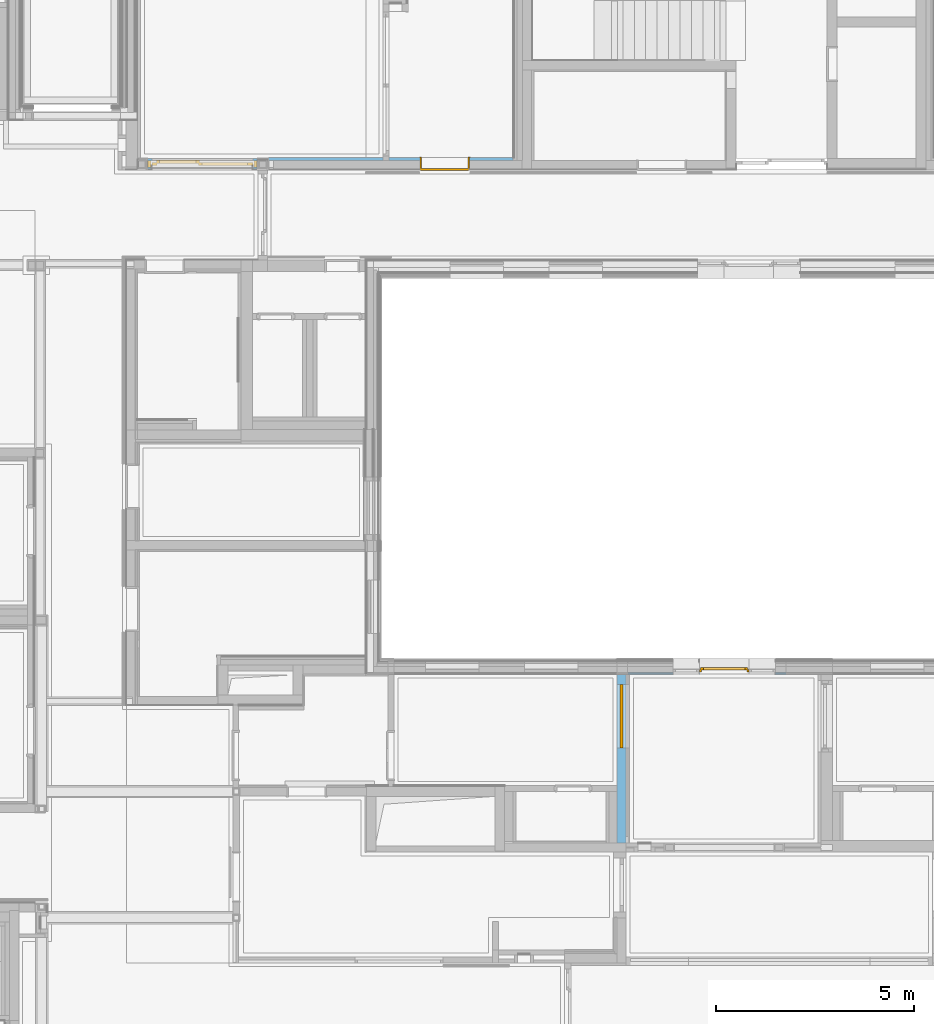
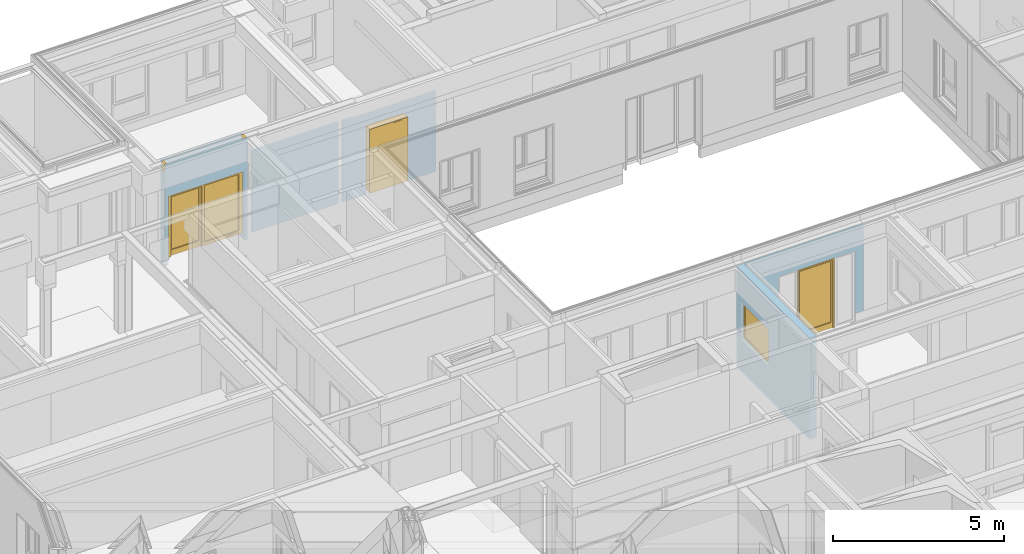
# One storey, part 103 of 207: 3 doors, 1 window, 6 openings, plus 4 elements that do not belong to this part.
"""IFC4 building model written with IfcOpenShell, lengths in metres."""

import ifcopenshell
import ifcopenshell.guid

model = None  # the IFC model being written
_history = None  # IfcOwnerHistory: only IFC2X3 demands one
_inside = {}  # id of a spatial element -> (the spatial element, [elements in it])
_under = {}  # id of a project, library or spatial element -> (it, [spatial elements below it])
_declared = {}  # id of a project -> (the project, [libraries it declares])
_typed = {}  # id of a type object -> (the type object, [elements of that type])
_made_of = {}  # id of a material, layer set ... -> (it, [elements and type objects made of it])


def new_model(schema):
    """Start an empty IFC model of exactly this schema.

    Asked for "IFC4X3", IfcOpenShell would pick the latest addendum, in which some entities
    have other attributes; the version numbers below select the first issue.
    IFC2X3 requires an IfcOwnerHistory on every rooted entity: one is made here for all.
    """
    global model, _history
    if schema == "IFC4X3":
        model = ifcopenshell.file(schema_version=(4, 3, 0, 0))
    else:
        model = ifcopenshell.file(schema=schema)
    _inside.clear()
    _under.clear()
    _declared.clear()
    _typed.clear()
    _made_of.clear()
    _history = None
    if model.schema == "IFC2X3":
        org = make("IfcOrganization", Name="unknown")
        user = make(
            "IfcPersonAndOrganization",
            ThePerson=make("IfcPerson", FamilyName="unknown"),
            TheOrganization=org,
        )
        app = make(
            "IfcApplication",
            ApplicationDeveloper=org,
            Version="unknown",
            ApplicationFullName="unknown",
            ApplicationIdentifier="unknown",
        )
        _history = make(
            "IfcOwnerHistory",
            OwningUser=user,
            OwningApplication=app,
            ChangeAction="ADDED",
            CreationDate=0,
        )
    return model


def make(cls, **values):
    """One entity of the class cls with the attributes given. An attribute that is None is left unset."""
    return model.create_entity(
        cls, **{name: value for name, value in values.items() if value is not None}
    )


def entity(cls, *values):
    """Any entity or typed value of the class cls, its attributes in the order of the schema. None: left unset."""
    e = model.create_entity(cls)
    for i, value in enumerate(values):
        if value is not None:
            e[i] = value
    return e


def rooted(cls, **values):
    """An entity with a GlobalId (a new one), such as an element, a storey or a relation."""
    return make(cls, GlobalId=ifcopenshell.guid.new(), OwnerHistory=_history, **values)


def si_unit(unit_type, name, prefix=None):
    """IfcSIUnit, for example si_unit("LENGTHUNIT", "METRE", prefix="MILLI")."""
    return make("IfcSIUnit", UnitType=unit_type, Prefix=prefix, Name=name)


def converted_unit(unit_type, name, factor, base, dimensions=None, offset=None):
    """IfcConversionBasedUnit, such as the inch: factor (a typed value) times the base unit."""
    return make(
        "IfcConversionBasedUnit"
        if offset is None
        else "IfcConversionBasedUnitWithOffset",
        ConversionOffset=offset,
        Dimensions=None
        if dimensions is None
        else entity("IfcDimensionalExponents", *dimensions),
        UnitType=unit_type,
        Name=name,
        ConversionFactor=make(
            "IfcMeasureWithUnit", ValueComponent=factor, UnitComponent=base
        ),
    )


def derived_unit(unit_type, elements):
    """IfcDerivedUnit: a product of units, each with its exponent."""
    return make(
        "IfcDerivedUnit",
        Elements=[
            make("IfcDerivedUnitElement", Unit=unit, Exponent=power)
            for unit, power in elements
        ],
        UnitType=unit_type,
    )


def assignment(units):
    """IfcUnitAssignment: the units of a project."""
    return None if units is None else make("IfcUnitAssignment", Units=units)


def point(xyz):
    """IfcCartesianPoint."""
    return None if xyz is None else make("IfcCartesianPoint", Coordinates=xyz)


def direction(xyz):
    """IfcDirection."""
    return None if xyz is None else make("IfcDirection", DirectionRatios=xyz)


def frame(location, z_axis=None, x_axis=None):
    """IfcAxis2Placement3D, a coordinate frame: its origin and axes. An axis left out is left unset."""
    return make(
        "IfcAxis2Placement3D",
        Location=point(location),
        Axis=direction(z_axis),
        RefDirection=direction(x_axis),
    )


def frame_2d(location, x_axis=None):
    """IfcAxis2Placement2D, a coordinate frame in the plane: its origin and x axis."""
    return make(
        "IfcAxis2Placement2D", Location=point(location), RefDirection=direction(x_axis)
    )


def origin():
    """The frame at (0, 0, 0) with its axes left unset."""
    return frame((0.0, 0.0, 0.0))


def origin_with_axes():
    """The frame at (0, 0, 0) with the z axis (0, 0, 1) and the x axis (1, 0, 0) written out."""
    return frame((0.0, 0.0, 0.0), z_axis=(0.0, 0.0, 1.0), x_axis=(1.0, 0.0, 0.0))


def place(relative_to, where):
    """IfcLocalPlacement: puts the frame where relative to a parent placement (None: the world)."""
    return make(
        "IfcLocalPlacement", PlacementRelTo=relative_to, RelativePlacement=where
    )


def context(
    kind, dimensions, precision=None, world=None, true_north=None, identifier=None
):
    """IfcGeometricRepresentationContext, for example the 3D "Model" context."""
    return make(
        "IfcGeometricRepresentationContext",
        ContextIdentifier=identifier,
        ContextType=kind,
        CoordinateSpaceDimension=dimensions,
        Precision=precision,
        WorldCoordinateSystem=world,
        TrueNorth=true_north,
    )


def subcontext(parent, identifier, kind, view, scale=None):
    """IfcGeometricRepresentationSubContext, for example "Body" below "Model"."""
    return make(
        "IfcGeometricRepresentationSubContext",
        ContextIdentifier=identifier,
        ContextType=kind,
        ParentContext=parent,
        TargetScale=scale,
        TargetView=view,
    )


def project(units=None, contexts=None):
    """IfcProject with its units and contexts."""
    return rooted(
        "IfcProject",
        Name="project",
        RepresentationContexts=contexts,
        UnitsInContext=assignment(units),
    )


def spatial(cls, under=None, at=None, **own):
    """A site, building, storey or space (cls), placed at a placement, below another one or the project."""
    s = rooted(cls, ObjectPlacement=at, **own)
    if under is not None:
        _under.setdefault(under.id(), (under, []))[1].append(s)
    return s


def polyline(points):
    """IfcPolyline through the points."""
    return make("IfcPolyline", Points=[point(p) for p in points])


def profile(cls, at=None, kind="AREA", **sizes):
    """A parametric profile (cls). Its sizes go by their IFC names, for example OverallWidth=200.0."""
    return make(cls, ProfileType=kind, Position=at, **sizes)


def rectangle(**sizes):
    """IfcRectangleProfileDef."""
    return profile("IfcRectangleProfileDef", **sizes)


def outline(outer, holes=None, kind="AREA"):
    """IfcArbitraryClosedProfileDef: a profile drawn as a closed curve; with holes, ...WithVoids."""
    if holes is None:
        return make("IfcArbitraryClosedProfileDef", ProfileType=kind, OuterCurve=outer)
    return make(
        "IfcArbitraryProfileDefWithVoids",
        ProfileType=kind,
        OuterCurve=outer,
        InnerCurves=holes,
    )


def extrude(swept, where, along, depth):
    """IfcExtrudedAreaSolid: the profile swept, set in the frame where, extruded along a direction by depth."""
    return make(
        "IfcExtrudedAreaSolid",
        SweptArea=swept,
        Position=where,
        ExtrudedDirection=direction(along),
        Depth=depth,
    )


def clip(a, b, op="DIFFERENCE"):
    """IfcBooleanClippingResult: the solid a cut by the half space b."""
    return make(
        "IfcBooleanClippingResult", Operator=op, FirstOperand=a, SecondOperand=b
    )


def bounded_halfspace(plane, agree, where, boundary):
    """IfcPolygonalBoundedHalfSpace: a half space limited to a polygon's prism."""
    return make(
        "IfcPolygonalBoundedHalfSpace",
        BaseSurface=make("IfcPlane", Position=plane),
        AgreementFlag=agree,
        Position=where,
        PolygonalBoundary=boundary,
    )


def faces_of(points, faces, orient=None, outer=None):
    """IfcFace entities. A face is a list of loops; a loop is a list of indices into points, from 0.

    orient and outer hold one flag for each loop. By default every Orientation is true, the
    first loop of a face is its IfcFaceOuterBound and the others are IfcFaceBound.
    """
    made = []
    for i, loops in enumerate(faces):
        bounds = []
        for j, loop in enumerate(loops):
            is_outer = j == 0 if outer is None else outer[i][j]
            bounds.append(
                make(
                    "IfcFaceOuterBound" if is_outer else "IfcFaceBound",
                    Bound=make("IfcPolyLoop", Polygon=[points[k] for k in loop]),
                    Orientation=True if orient is None else orient[i][j],
                )
            )
        made.append(make("IfcFace", Bounds=bounds))
    return made


def closed_shell(faces, orient=None, outer=None):
    """The faces of one IfcClosedShell. faceted_brep and surface_model build it on their shared points."""
    return ("IfcClosedShell", faces, orient, outer)


def open_shell(faces, orient=None, outer=None):
    """The faces of one IfcOpenShell. surface_model builds it on its shared points."""
    return ("IfcOpenShell", faces, orient, outer)


def faceted_brep(points, faces, orient=None, outer=None, voids=None):
    """IfcFacetedBrep: a solid bounded by flat faces; with voids (closed shells), ...WithVoids."""
    shared = [point(p) for p in points]
    hull = make("IfcClosedShell", CfsFaces=faces_of(shared, faces, orient, outer))
    if voids is None:
        return make("IfcFacetedBrep", Outer=hull)
    return make(
        "IfcFacetedBrepWithVoids",
        Outer=hull,
        Voids=[
            make(cls, CfsFaces=faces_of(shared, fs, o, b)) for cls, fs, o, b in voids
        ],
    )


def surface_model(cls, points, shells):
    """IfcFaceBasedSurfaceModel or IfcShellBasedSurfaceModel (cls): surfaces that need not close."""
    shared = [point(p) for p in points]
    made = [make(c, CfsFaces=faces_of(shared, fs, o, b)) for c, fs, o, b in shells]
    if cls == "IfcFaceBasedSurfaceModel":
        return make(cls, FbsmFaces=made)
    return make(cls, SbsmBoundary=made)


def shape(context_of_items, identifier, shape_type, items):
    """IfcShapeRepresentation: the items that make up one representation, for example the "Body"."""
    return make(
        "IfcShapeRepresentation",
        ContextOfItems=context_of_items,
        RepresentationIdentifier=identifier,
        RepresentationType=shape_type,
        Items=items,
    )


def source(mapping_origin, context_of_items, identifier, shape_type, items):
    """IfcRepresentationMap: a shape defined once, which mapped items show again and again."""
    return make(
        "IfcRepresentationMap",
        MappingOrigin=mapping_origin,
        MappedRepresentation=shape(context_of_items, identifier, shape_type, items),
    )


def transform(
    local_origin,
    x_axis=None,
    y_axis=None,
    z_axis=None,
    scale=None,
    scale2=None,
    scale3=None,
    uniform=True,
):
    """IfcCartesianTransformationOperator3D, or its non-uniform kind. x_axis, y_axis, z_axis: its Axis1, 2, 3."""
    if uniform:
        return make(
            "IfcCartesianTransformationOperator3D",
            Axis1=direction(x_axis),
            Axis2=direction(y_axis),
            LocalOrigin=point(local_origin),
            Scale=scale,
            Axis3=direction(z_axis),
        )
    return make(
        "IfcCartesianTransformationOperator3DnonUniform",
        Axis1=direction(x_axis),
        Axis2=direction(y_axis),
        LocalOrigin=point(local_origin),
        Scale=scale,
        Axis3=direction(z_axis),
        Scale2=scale2,
        Scale3=scale3,
    )


def mapped(mapping_source, mapping_target):
    """IfcMappedItem: shows the shape of a source again, moved by a transform."""
    return make(
        "IfcMappedItem", MappingSource=mapping_source, MappingTarget=mapping_target
    )


def material(Name=None, Category=None):
    """IfcMaterial."""
    return make("IfcMaterial", Name=Name, Category=Category)


def made_of(thing, what):
    """Note that an element or type object is made of a material, layer set ...; save() writes the relation."""
    if what is not None:
        _made_of.setdefault(what.id(), (what, []))[1].append(thing)
    return thing


def type_object(cls, material=None, **own):
    """A type object (cls), such as IfcWallType, which elements share."""
    return made_of(rooted(cls, **own), material)


def element(
    cls,
    number,
    at=None,
    inside=None,
    cuts=None,
    type_object=None,
    material=None,
    context=None,
    identifier="Body",
    shape_type=None,
    held_by="IfcProductDefinitionShape",
    body=None,
    shapes=None,
    **own,
):
    """One element of the class cls, such as IfcWall. Its Tag is "e" and its number.

    at: its placement. inside: the storey or other place that contains it. cuts: it is an
    opening in that element (IfcRelVoidsElement). A single representation is given by context,
    identifier, shape_type and body (its items); several are given by shapes. held_by: the class
    of the entity that holds the representations. save() writes the other relations.
    """
    e = rooted(cls, Tag="e%d" % number, ObjectPlacement=at, **own)
    if body is not None:
        shapes = [shape(context, identifier, shape_type, body)]
    if shapes is not None:
        e.Representation = make(held_by, Representations=shapes)
    if inside is not None:
        _inside.setdefault(inside.id(), (inside, []))[1].append(e)
    if cuts is not None:
        rooted(
            "IfcRelVoidsElement", RelatingBuildingElement=cuts, RelatedOpeningElement=e
        )
    if type_object is not None:
        _typed.setdefault(type_object.id(), (type_object, []))[1].append(e)
    return made_of(e, material)


def fill(opening, filler):
    """IfcRelFillsElement: the door or window that sits in an opening."""
    return rooted(
        "IfcRelFillsElement",
        RelatingOpeningElement=opening,
        RelatedBuildingElement=filler,
    )


def aggregate(whole, parts):
    """IfcRelAggregates: a whole, such as a stair, and the parts it consists of."""
    return rooted("IfcRelAggregates", RelatingObject=whole, RelatedObjects=parts)


def save(model, path):
    """Write the relations noted so far, then the file.

    IfcRelAggregates (storeys below a building ...), IfcRelContainedInSpatialStructure (elements
    in a storey), IfcRelDefinesByType, IfcRelAssociatesMaterial and IfcRelDeclares: one each for
    every whole, place, type object, material and project.
    """
    for whole, parts in _under.values():
        aggregate(whole, parts)
    for where, things in _inside.values():
        rooted(
            "IfcRelContainedInSpatialStructure",
            RelatedElements=things,
            RelatingStructure=where,
        )
    for kind, things in _typed.values():
        rooted("IfcRelDefinesByType", RelatedObjects=things, RelatingType=kind)
    for what, things in _made_of.values():
        rooted("IfcRelAssociatesMaterial", RelatedObjects=things, RelatingMaterial=what)
    for by, libraries in _declared.values():
        rooted("IfcRelDeclares", RelatingContext=by, RelatedDefinitions=libraries)
    model.write(path)


model = new_model("IFC4")

# Units and contexts
model_context = context("Model", 3, precision=1e-05, world=origin())
body_context = subcontext(model_context, "Body", "Model", "MODEL_VIEW")
ifc_project = project(units=[si_unit("LENGTHUNIT", "METRE"), si_unit("AREAUNIT", "SQUARE_METRE"), si_unit("VOLUMEUNIT", "CUBIC_METRE"), si_unit("MASSUNIT", "GRAM", prefix="KILO"), converted_unit("PLANEANGLEUNIT", "DEGREE", entity("IfcPlaneAngleMeasure", 0.0174532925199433), si_unit("PLANEANGLEUNIT", "RADIAN"), dimensions=[0, 0, 0, 0, 0, 0, 0]), derived_unit("THERMALTRANSMITTANCEUNIT", [(si_unit("POWERUNIT", "WATT"), 1), (si_unit("THERMODYNAMICTEMPERATUREUNIT", "KELVIN"), -1), (si_unit("LENGTHUNIT", "METRE"), -2)]), derived_unit("VOLUMETRICFLOWRATEUNIT", [(si_unit("LENGTHUNIT", "METRE"), 3), (converted_unit("TIMEUNIT", "hour", entity("IfcTimeMeasure", 3600.0), si_unit("TIMEUNIT", "SECOND"), dimensions=[0, 0, 1, 0, 0, 0, 0]), -1), (si_unit("LENGTHUNIT", "METRE"), -1)])], contexts=[model_context])

# Site, building, storey
site_placement = place(None, origin())
site = spatial("IfcSite", under=ifc_project, at=site_placement, Name="Psychiatrie Neubau Wunstorf", CompositionType="ELEMENT")
building_placement = place(site_placement, origin())
building = spatial("IfcBuilding", under=site, at=building_placement, Name="Neubau H2 Stationsgebäude", CompositionType="ELEMENT")
storey_placement = place(building_placement, frame((0.0, 0.0, -0.2)))
storey = spatial("IfcBuildingStorey", under=building, at=storey_placement, Name="H2 Ebene 0", CompositionType="ELEMENT", Elevation=-0.2)

# Wall, openings, door
ifc_material_1 = material(Name="WA-LB")
wall_1_placement = place(storey_placement, frame((50.5580000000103, 10.1139996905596, 0.5)))
wall_1 = element("IfcWall", 1, at=wall_1_placement, inside=storey, material=ifc_material_1, context=body_context, shape_type="SweptSolid", body=[
    extrude(rectangle(XDim=4.00450000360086, YDim=0.036, at=frame_2d((2.00225000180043, 0.018), x_axis=(1.0, 0.0))), origin_with_axes(), (0.0, 0.0, 1.0), 3.1),
])
opening_1_placement = place(wall_1_placement, frame((1.81567714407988, 0.036, -0.3), z_axis=(0.0, -1.0, 0.0), x_axis=(0.0, 0.0, 1.0)))
element("IfcOpeningElement", 2, at=opening_1_placement, cuts=wall_1, Name="Fensteröffnung", ObjectType="Opening", context=body_context, shape_type="SweptSolid", body=[
    extrude(outline(polyline([(2.52, 0.675), (2.52, 0.0), (0.0, 0.0), (0.0, 0.675), (2.52, 0.675)])), origin_with_axes(), (0.0, 0.0, 1.0), 0.036),
])
opening_2_placement = place(wall_1_placement, frame((3.06570000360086, 0.036, -0.5), z_axis=(0.0, -1.0, 0.0), x_axis=(0.0, 0.0, 1.0)))
opening_2 = element("IfcOpeningElement", 3, at=opening_2_placement, cuts=wall_1, Name="Türöffnung", ObjectType="Opening", context=body_context, shape_type="SweptSolid", body=[
    extrude(outline(polyline([(2.72, 1.25), (2.72, 0.0), (0.0, 0.0), (0.0, 1.25), (2.72, 1.25)])), origin_with_axes(), (0.0, 0.0, 1.0), 0.036),
])
opening_3_placement = place(wall_1_placement, frame((3.74070000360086, 0.036, -0.3), z_axis=(0.0, -1.0, 0.0), x_axis=(0.0, 0.0, 1.0)))
element("IfcOpeningElement", 4, at=opening_3_placement, cuts=wall_1, Name="Fensteröffnung", ObjectType="Opening", context=body_context, shape_type="SweptSolid", body=[
    extrude(outline(polyline([(2.52, 0.675), (2.52, 0.0), (0.0, 0.0), (0.0, 0.675), (2.52, 0.675)])), origin_with_axes(), (0.0, 0.0, 1.0), 0.036),
])
ifc_material_2 = material(Name="TA-1F-AG-D-O")
door_type_1 = type_object("IfcDoorType", Name="SMT", OperationType="SINGLE_SWING_RIGHT", ParameterTakesPrecedence=False, PredefinedType="DOOR")
shared_shape_1 = source(origin_with_axes(), body_context, "Body", "SurfaceModel", [
    surface_model("IfcShellBasedSurfaceModel", [(1.25, 0.07, 2.67), (1.2, 0.07, 2.67), (1.2, 0.07, 0.2), (1.25, 0.07, 0.2), (1.25, 0.0, 0.2), (1.2, 0.0, 0.2), (1.2, 0.0, 2.67), (1.25, 0.0, 2.67)], [closed_shell([[[0, 1, 2, 3]], [[4, 5, 6, 7]], [[3, 4, 7, 0]], [[2, 5, 4, 3]], [[1, 6, 5, 2]], [[0, 7, 6, 1]]], orient=[[False], [False], [False], [False], [False], [False]])]),
    surface_model("IfcShellBasedSurfaceModel", [(0.05, 0.07, 2.67), (0.0, 0.07, 2.67), (0.0, 0.07, 0.2), (0.05, 0.07, 0.2), (0.05, 0.0, 0.2), (0.0, 0.0, 0.2), (0.0, 0.0, 2.67), (0.05, 0.0, 2.67)], [closed_shell([[[0, 1, 2, 3]], [[4, 5, 6, 7]], [[3, 4, 7, 0]], [[2, 5, 4, 3]], [[1, 6, 5, 2]], [[0, 7, 6, 1]]], orient=[[False], [False], [False], [False], [False], [False]])]),
    surface_model("IfcShellBasedSurfaceModel", [(1.2, 0.07, 2.67), (0.05, 0.07, 2.67), (0.05, 0.07, 2.62), (1.2, 0.07, 2.62), (1.2, 0.0, 2.62), (0.05, 0.0, 2.62), (0.05, 0.0, 2.67), (1.2, 0.0, 2.67)], [closed_shell([[[0, 1, 2, 3]], [[4, 5, 6, 7]], [[3, 4, 7, 0]], [[2, 5, 4, 3]], [[1, 6, 5, 2]], [[0, 7, 6, 1]]], orient=[[False], [False], [False], [False], [False], [False]])]),
    surface_model("IfcShellBasedSurfaceModel", [(1.22, 0.12, 2.64), (1.15, 0.12, 2.64), (1.15, 0.12, 0.18), (1.22, 0.12, 0.18), (1.22, 0.05, 0.18), (1.15, 0.05, 0.18), (1.15, 0.05, 2.64), (1.22, 0.05, 2.64)], [closed_shell([[[0, 1, 2, 3]], [[4, 5, 6, 7]], [[3, 4, 7, 0]], [[2, 5, 4, 3]], [[1, 6, 5, 2]], [[0, 7, 6, 1]]], orient=[[False], [False], [False], [False], [False], [False]])]),
    surface_model("IfcShellBasedSurfaceModel", [(0.1, 0.12, 2.64), (0.03, 0.12, 2.64), (0.03, 0.12, 0.18), (0.1, 0.12, 0.18), (0.1, 0.05, 0.18), (0.03, 0.05, 0.18), (0.03, 0.05, 2.64), (0.1, 0.05, 2.64)], [closed_shell([[[0, 1, 2, 3]], [[4, 5, 6, 7]], [[3, 4, 7, 0]], [[2, 5, 4, 3]], [[1, 6, 5, 2]], [[0, 7, 6, 1]]], orient=[[False], [False], [False], [False], [False], [False]])]),
    surface_model("IfcShellBasedSurfaceModel", [(1.15, 0.12, 0.38), (0.1, 0.12, 0.38), (0.1, 0.12, 0.18), (1.15, 0.12, 0.18), (1.15, 0.05, 0.18), (0.1, 0.05, 0.18), (0.1, 0.05, 0.38), (1.15, 0.05, 0.38)], [closed_shell([[[0, 1, 2, 3]], [[4, 5, 6, 7]], [[3, 4, 7, 0]], [[2, 5, 4, 3]], [[1, 6, 5, 2]], [[0, 7, 6, 1]]], orient=[[False], [False], [False], [False], [False], [False]])]),
    surface_model("IfcShellBasedSurfaceModel", [(1.15, 0.12, 2.64), (0.1, 0.12, 2.64), (0.1, 0.12, 2.57), (1.15, 0.12, 2.57), (1.15, 0.05, 2.57), (0.1, 0.05, 2.57), (0.1, 0.05, 2.64), (1.15, 0.05, 2.64)], [closed_shell([[[0, 1, 2, 3]], [[4, 5, 6, 7]], [[3, 4, 7, 0]], [[2, 5, 4, 3]], [[1, 6, 5, 2]], [[0, 7, 6, 1]]], orient=[[False], [False], [False], [False], [False], [False]])]),
    surface_model("IfcShellBasedSurfaceModel", [(1.15, 0.085, 0.38), (1.15, 0.085, 2.57), (0.1, 0.085, 2.57), (0.1, 0.085, 0.38)], [open_shell([[[0, 1, 2, 3]]], orient=[[False]])]),
])
door_1_placement = place(opening_2_placement, frame((0.0, 1.25, -0.014), z_axis=(1.0, 0.0, 0.0), x_axis=(0.0, -1.0, 0.0)))
door_1 = element("IfcDoor", 5, at=door_1_placement, inside=storey, type_object=door_type_1, material=ifc_material_2, Name="SMT", OverallHeight=2.67, OverallWidth=1.25, context=body_context, shape_type="MappedRepresentation", body=[
    mapped(shared_shape_1, transform((0.0, 0.0, 0.0), x_axis=(1.0, 0.0, 0.0), y_axis=(0.0, 1.0, 0.0), z_axis=(0.0, 0.0, 1.0), scale=1.0)),
])
fill(opening_2, door_1)

# Wall, opening, door
ifc_material_3 = material(Name="WI-LW 60")
wall_2_placement = place(storey_placement, frame((41.188, 23.1539990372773, 0.0), z_axis=(0.0, 0.0, 1.0), x_axis=(-0.999999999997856, -2.07069288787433e-06, 0.0)))
wall_2 = element("IfcWall", 6, at=wall_2_placement, inside=storey, material=ifc_material_3, context=body_context, shape_type="Clipping", body=[
    clip(extrude(outline(polyline([(-2.65750060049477, -0.289994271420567), (-0.107500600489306, -0.28999427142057), (-6.00489075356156e-07, -0.289994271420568), (0.0, 0.0), (-2.76499999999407, 5.72546583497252e-06), (-2.765000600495, -0.289994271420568), (-2.65750060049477, -0.289994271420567)])), frame((2.765000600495, 0.289994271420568, 0.0), z_axis=(0.0, 0.0, 1.0), x_axis=(1.0, 0.0, 0.0)), (0.0, 0.0, 1.0), 3.6), bounded_halfspace(frame((1.38250030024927, 0.144997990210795, 3.3), z_axis=(0.0, 0.0, -1.0), x_axis=(2.07069288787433e-06, 0.999999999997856, 0.0)), True, origin_with_axes(), polyline([(2.76500011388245, 0.0549944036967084), (2.76500048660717, 0.234994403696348), (4.8661609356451e-07, 0.235001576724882), (1.13891373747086e-07, 0.0550015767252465), (2.76500011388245, 0.0549944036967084)]))),
])
opening_4_placement = place(wall_2_placement, frame((2.6574999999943, 0.289999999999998, 0.0), z_axis=(3.24297584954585e-11, -1.0, 0.0), x_axis=(0.0, 0.0, 1.0)))
opening_4 = element("IfcOpeningElement", 7, at=opening_4_placement, cuts=wall_2, Name="Türöffnung", ObjectType="Opening", context=body_context, shape_type="SweptSolid", body=[
    extrude(outline(polyline([(2.46, 2.55), (2.46, 0.0), (0.0, 0.0), (0.0, 2.55), (2.46, 2.55)])), origin_with_axes(), (0.0, 0.0, 1.0), 0.29),
])
ifc_material_4 = material(Name="TI-1F-AG-D-1S-O")
shared_shape_2 = source(origin_with_axes(), body_context, "Body", "Brep", [
    faceted_brep([(2.65749999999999, -0.0500000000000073, 0.0), (2.65749999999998, 0.129999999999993, 0.0), (2.57749999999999, 0.129999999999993, 0.0), (2.57749999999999, -0.0500000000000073, 0.0), (2.65749999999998, 0.129999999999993, 3.6), (2.65749999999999, -0.0500000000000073, 3.6), (2.57749999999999, -0.0500000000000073, 3.6), (2.57749999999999, 0.129999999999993, 3.6)], [[[0, 1, 2, 3]], [[4, 5, 6, 7]], [[1, 0, 5, 4]], [[2, 1, 4, 7]], [[3, 2, 7, 6]], [[0, 3, 6, 5]]], orient=[[False], [False], [False], [False], [False], [False]]),
    faceted_brep([(-0.0275000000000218, -0.0500000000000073, 0.0), (-0.0275000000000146, 0.129999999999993, 0.0), (-0.107500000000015, 0.129999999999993, 0.0), (-0.107500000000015, -0.0500000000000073, 0.0), (-0.0275000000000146, 0.129999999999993, 3.6), (-0.0275000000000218, -0.0500000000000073, 3.6), (-0.107500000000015, -0.0500000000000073, 3.6), (-0.107500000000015, 0.129999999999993, 3.6)], [[[0, 1, 2, 3]], [[4, 5, 6, 7]], [[1, 0, 5, 4]], [[2, 1, 4, 7]], [[3, 2, 7, 6]], [[0, 3, 6, 5]]], orient=[[False], [False], [False], [False], [False], [False]]),
    faceted_brep([(2.57749999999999, -0.0500000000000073, 2.4875), (2.57749999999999, 0.129999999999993, 2.4875), (-0.0275000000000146, 0.129999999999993, 2.4875), (-0.0275000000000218, -0.0500000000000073, 2.4875), (2.57749999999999, 0.129999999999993, 2.5675), (2.57749999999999, -0.0500000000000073, 2.5675), (-0.0275000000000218, -0.0500000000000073, 2.5675), (-0.0275000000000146, 0.129999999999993, 2.5675)], [[[0, 1, 2, 3]], [[4, 5, 6, 7]], [[1, 0, 5, 4]], [[2, 1, 4, 7]], [[3, 2, 7, 6]], [[0, 3, 6, 5]]], orient=[[False], [False], [False], [False], [False], [False]]),
])
shared_shape_3 = source(origin_with_axes(), body_context, "Body", "SurfaceModel", [
    surface_model("IfcShellBasedSurfaceModel", [(0.0, 0.000499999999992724, 2.46), (0.0499999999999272, 0.000499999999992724, 2.46), (0.0499999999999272, 0.000499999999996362, 0.2), (0.0, 0.000499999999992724, 0.2), (0.0, 0.0794999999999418, 0.2), (0.0499999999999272, 0.0794999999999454, 0.2), (0.0499999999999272, 0.0794999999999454, 2.46), (0.0, 0.0794999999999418, 2.46)], [closed_shell([[[0, 1, 2, 3]], [[4, 5, 6, 7]], [[3, 4, 7, 0]], [[2, 5, 4, 3]], [[1, 6, 5, 2]], [[0, 7, 6, 1]]], orient=[[False], [False], [False], [False], [False], [False]])]),
    surface_model("IfcShellBasedSurfaceModel", [(2.49999999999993, 0.000499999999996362, 2.46), (2.54999999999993, 0.000499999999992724, 2.46), (2.54999999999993, 0.000499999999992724, 0.2), (2.49999999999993, 0.000499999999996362, 0.2), (2.49999999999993, 0.0794999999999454, 0.2), (2.54999999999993, 0.0794999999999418, 0.2), (2.54999999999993, 0.0794999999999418, 2.46), (2.49999999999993, 0.0794999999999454, 2.46)], [closed_shell([[[0, 1, 2, 3]], [[4, 5, 6, 7]], [[3, 4, 7, 0]], [[2, 5, 4, 3]], [[1, 6, 5, 2]], [[0, 7, 6, 1]]], orient=[[False], [False], [False], [False], [False], [False]])]),
    surface_model("IfcShellBasedSurfaceModel", [(0.0499999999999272, 0.000499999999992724, 2.46), (2.49999999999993, 0.000499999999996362, 2.46), (2.49999999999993, 0.000499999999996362, 2.41), (0.0499999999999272, 0.000499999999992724, 2.41), (0.0499999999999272, 0.0794999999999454, 2.41), (2.49999999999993, 0.0794999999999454, 2.41), (2.49999999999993, 0.0794999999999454, 2.46), (0.0499999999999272, 0.0794999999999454, 2.46)], [closed_shell([[[0, 1, 2, 3]], [[4, 5, 6, 7]], [[3, 4, 7, 0]], [[2, 5, 4, 3]], [[1, 6, 5, 2]], [[0, 7, 6, 1]]], orient=[[False], [False], [False], [False], [False], [False]])]),
    surface_model("IfcShellBasedSurfaceModel", [(0.0499999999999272, 0.0, 2.41), (0.129999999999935, 0.0, 2.41), (0.129999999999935, 0.0, 0.2), (0.0499999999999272, 0.0, 0.2), (0.0499999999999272, 0.0799999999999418, 0.2), (0.129999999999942, 0.0799999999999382, 0.2), (0.129999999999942, 0.0799999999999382, 2.41), (0.0499999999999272, 0.0799999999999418, 2.41)], [closed_shell([[[0, 1, 2, 3]], [[4, 5, 6, 7]], [[3, 4, 7, 0]], [[2, 5, 4, 3]], [[1, 6, 5, 2]], [[0, 7, 6, 1]]], orient=[[False], [False], [False], [False], [False], [False]])]),
    surface_model("IfcShellBasedSurfaceModel", [(2.41999999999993, 0.0, 2.41), (2.49999999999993, 0.0, 2.41), (2.49999999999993, 0.0, 0.2), (2.41999999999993, 0.0, 0.2), (2.41999999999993, 0.0799999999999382, 0.2), (2.49999999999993, 0.0799999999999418, 0.2), (2.49999999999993, 0.0799999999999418, 2.41), (2.41999999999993, 0.0799999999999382, 2.41)], [closed_shell([[[0, 1, 2, 3]], [[4, 5, 6, 7]], [[3, 4, 7, 0]], [[2, 5, 4, 3]], [[1, 6, 5, 2]], [[0, 7, 6, 1]]], orient=[[False], [False], [False], [False], [False], [False]])]),
    surface_model("IfcShellBasedSurfaceModel", [(0.129999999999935, 0.0, 2.41), (2.41999999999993, 0.0, 2.41), (2.41999999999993, 0.0, 2.33), (0.129999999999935, 0.0, 2.33), (0.129999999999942, 0.0799999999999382, 2.33), (2.41999999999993, 0.0799999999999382, 2.33), (2.41999999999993, 0.0799999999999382, 2.41), (0.129999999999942, 0.0799999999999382, 2.41)], [closed_shell([[[0, 1, 2, 3]], [[4, 5, 6, 7]], [[3, 4, 7, 0]], [[2, 5, 4, 3]], [[1, 6, 5, 2]], [[0, 7, 6, 1]]], orient=[[False], [False], [False], [False], [False], [False]])]),
    surface_model("IfcShellBasedSurfaceModel", [(0.109999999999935, 0.0599999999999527, 2.35), (0.189999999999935, 0.0599999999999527, 2.35), (0.189999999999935, 0.0599999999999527, 0.18), (0.109999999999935, 0.0599999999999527, 0.18), (0.109999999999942, 0.139999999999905, 0.18), (0.189999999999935, 0.139999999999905, 0.18), (0.189999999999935, 0.139999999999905, 2.35), (0.109999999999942, 0.139999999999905, 2.35)], [closed_shell([[[0, 1, 2, 3]], [[4, 5, 6, 7]], [[3, 4, 7, 0]], [[2, 5, 4, 3]], [[1, 6, 5, 2]], [[0, 7, 6, 1]]], orient=[[False], [False], [False], [False], [False], [False]])]),
    surface_model("IfcShellBasedSurfaceModel", [(1.11999999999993, 0.0599999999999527, 2.35), (1.19999999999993, 0.0599999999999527, 2.35), (1.19999999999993, 0.0599999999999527, 0.18), (1.11999999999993, 0.0599999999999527, 0.18), (1.11999999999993, 0.139999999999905, 0.18), (1.19999999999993, 0.139999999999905, 0.18), (1.19999999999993, 0.139999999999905, 2.35), (1.11999999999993, 0.139999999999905, 2.35)], [closed_shell([[[0, 1, 2, 3]], [[4, 5, 6, 7]], [[3, 4, 7, 0]], [[2, 5, 4, 3]], [[1, 6, 5, 2]], [[0, 7, 6, 1]]], orient=[[False], [False], [False], [False], [False], [False]])]),
    surface_model("IfcShellBasedSurfaceModel", [(0.189999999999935, 0.0599999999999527, 0.38), (1.11999999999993, 0.0599999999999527, 0.38), (1.11999999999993, 0.0599999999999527, 0.18), (0.189999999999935, 0.0599999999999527, 0.18), (0.189999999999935, 0.139999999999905, 0.18), (1.11999999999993, 0.139999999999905, 0.18), (1.11999999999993, 0.139999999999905, 0.38), (0.189999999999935, 0.139999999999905, 0.38)], [closed_shell([[[0, 1, 2, 3]], [[4, 5, 6, 7]], [[3, 4, 7, 0]], [[2, 5, 4, 3]], [[1, 6, 5, 2]], [[0, 7, 6, 1]]], orient=[[False], [False], [False], [False], [False], [False]])]),
    surface_model("IfcShellBasedSurfaceModel", [(0.189999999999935, 0.0599999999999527, 2.35), (1.11999999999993, 0.0599999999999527, 2.35), (1.11999999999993, 0.0599999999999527, 2.27), (0.189999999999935, 0.0599999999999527, 2.27), (0.189999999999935, 0.139999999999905, 2.27), (1.11999999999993, 0.139999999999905, 2.27), (1.11999999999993, 0.139999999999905, 2.35), (0.189999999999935, 0.139999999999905, 2.35)], [closed_shell([[[0, 1, 2, 3]], [[4, 5, 6, 7]], [[3, 4, 7, 0]], [[2, 5, 4, 3]], [[1, 6, 5, 2]], [[0, 7, 6, 1]]], orient=[[False], [False], [False], [False], [False], [False]])]),
    surface_model("IfcShellBasedSurfaceModel", [(1.18099999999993, 0.0, 2.33), (1.26099999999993, 0.0, 2.33), (1.26099999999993, 0.0, 0.2), (1.18099999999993, 0.0, 0.2), (1.18099999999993, 0.0799999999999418, 0.2), (1.26099999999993, 0.0799999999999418, 0.2), (1.26099999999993, 0.0799999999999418, 2.33), (1.18099999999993, 0.0799999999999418, 2.33)], [closed_shell([[[0, 1, 2, 3]], [[4, 5, 6, 7]], [[3, 4, 7, 0]], [[2, 5, 4, 3]], [[1, 6, 5, 2]], [[0, 7, 6, 1]]], orient=[[False], [False], [False], [False], [False], [False]])]),
    surface_model("IfcShellBasedSurfaceModel", [(1.26099999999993, 0.0, 0.32), (2.41999999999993, 0.0, 0.32), (2.41999999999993, 0.0, 0.2), (1.26099999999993, 0.0, 0.2), (1.26099999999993, 0.0799999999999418, 0.2), (2.41999999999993, 0.0799999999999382, 0.2), (2.41999999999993, 0.0799999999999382, 0.32), (1.26099999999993, 0.0799999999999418, 0.32)], [closed_shell([[[0, 1, 2, 3]], [[4, 5, 6, 7]], [[3, 4, 7, 0]], [[2, 5, 4, 3]], [[1, 6, 5, 2]], [[0, 7, 6, 1]]], orient=[[False], [False], [False], [False], [False], [False]])]),
    surface_model("IfcShellBasedSurfaceModel", [(1.26099999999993, 0.0399999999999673, 0.32), (1.26099999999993, 0.0399999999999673, 2.33), (2.41999999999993, 0.0399999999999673, 2.33), (2.41999999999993, 0.0399999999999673, 0.32)], [open_shell([[[0, 1, 2, 3]]], orient=[[False]])]),
    surface_model("IfcShellBasedSurfaceModel", [(0.189999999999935, 0.0999999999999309, 0.38), (0.189999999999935, 0.0999999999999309, 2.27), (1.11999999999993, 0.0999999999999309, 2.27), (1.11999999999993, 0.0999999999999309, 0.38)], [open_shell([[[0, 1, 2, 3]]], orient=[[False]])]),
])
door_2_placement = place(opening_4_placement, frame((0.0, 0.0, 0.104999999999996), z_axis=(1.0, 0.0, 0.0), x_axis=(0.0, 1.0, -3.24307627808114e-11)))
door_2 = element("IfcDoor", 8, at=door_2_placement, inside=storey, material=ifc_material_4, Name="SMT", OperationType="USERDEFINED", OverallHeight=2.46, OverallWidth=2.55, PredefinedType="DOOR", context=body_context, shape_type="MappedRepresentation", body=[
    mapped(shared_shape_2, transform((0.0, 0.0, 0.0), x_axis=(1.0, 0.0, 0.0), y_axis=(0.0, 1.0, 0.0), z_axis=(0.0, 0.0, 1.0), scale=1.0)),
    mapped(shared_shape_3, transform((0.0, 0.0, 0.0), x_axis=(1.0, 0.0, 0.0), y_axis=(0.0, 1.0, 0.0), z_axis=(0.0, 0.0, 1.0), scale=1.0)),
])
fill(opening_4, door_2)

ifc_material_5 = material(Name="WI-LB")
wall_3_placement = place(storey_placement, frame((47.664, 23.1709999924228, 0.0), z_axis=(0.0, 0.0, 1.0), x_axis=(-1.0, 0.0, 0.0)))
wall_3 = element("IfcWall", 9, at=wall_3_placement, inside=storey, material=ifc_material_5, context=body_context, shape_type="Clipping", body=[
    clip(extrude(rectangle(XDim=3.139, YDim=0.075, at=frame_2d((-1.5695, -0.0375), x_axis=(-1.0, 0.0))), frame((3.139, 0.075, 0.0), z_axis=(0.0, 0.0, 1.0), x_axis=(1.0, 0.0, 0.0)), (0.0, 0.0, 1.0), 2.9), bounded_halfspace(frame((1.40825000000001, 0.0375, 2.86), z_axis=(0.0, 0.0, -1.0), x_axis=(0.0, 1.0, 0.0)), True, origin_with_axes(), polyline([(2.81650000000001, 0.0), (2.81650000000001, 0.075), (0.0, 0.075), (0.0, 0.0), (2.81650000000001, 0.0)]))),
    clip(extrude(rectangle(XDim=2.897, YDim=0.075, at=frame_2d((1.4485, 0.0375), x_axis=(1.0, 0.0))), frame((3.289, 0.0, 0.0), z_axis=(0.0, 0.0, 1.0), x_axis=(1.0, 0.0, 0.0)), (0.0, 0.0, 1.0), 2.9), bounded_halfspace(frame((1.40825000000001, 0.0375, 2.86), z_axis=(0.0, 0.0, -1.0), x_axis=(0.0, 1.0, 0.0)), True, origin_with_axes(), polyline([(2.81650000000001, 0.0), (2.81650000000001, 0.075), (0.0, 0.075), (0.0, 0.0), (2.81650000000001, 0.0)]))),
])
opening_5_placement = place(wall_3_placement, frame((2.35899999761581, 0.075, 0.0), z_axis=(0.0, -1.0, 0.0), x_axis=(0.0, 0.0, 1.0)))
opening_5 = element("IfcOpeningElement", 10, at=opening_5_placement, cuts=wall_3, Name="Türöffnung", ObjectType="Opening", context=body_context, shape_type="SweptSolid", body=[
    extrude(outline(polyline([(2.46, 1.26), (2.46, 0.0), (0.0, 0.0), (0.0, 1.26), (2.46, 1.26)])), origin_with_axes(), (0.0, 0.0, 1.0), 0.075),
])
ifc_material_6 = material(Name="TI-1F-UZ-M-ZK-SF")
door_type_2 = type_object("IfcDoorType", Name="SMT", OperationType="SINGLE_SWING_RIGHT", ParameterTakesPrecedence=False, PredefinedType="DOOR")
shared_shape_4 = source(origin_with_axes(), body_context, "Body", "Brep", [
    faceted_brep([(1.26, -0.015, 2.46), (1.26, -0.015, 0.2), (1.22, -0.015, 0.2), (1.22, -0.015, 2.46), (1.26, 0.322, 0.2), (1.26, 0.322, 2.46), (1.22, 0.322, 2.46), (1.22, 0.322, 0.2)], [[[0, 1, 2, 3]], [[4, 5, 6, 7]], [[1, 0, 5, 4]], [[2, 1, 4, 7]], [[3, 2, 7, 6]], [[0, 3, 6, 5]]], orient=[[False], [False], [False], [False], [False], [False]]),
    faceted_brep([(1.26, -0.015, 2.475), (1.275, -0.015, 2.475), (1.275, -0.015, 0.2), (1.26, -0.015, 0.2), (1.26, 0.0, 0.2), (1.275, 0.0, 0.2), (1.275, 0.0, 2.475), (1.26, 0.0, 2.475)], [[[0, 1, 2, 3]], [[4, 5, 6, 7]], [[3, 4, 7, 0]], [[2, 5, 4, 3]], [[1, 6, 5, 2]], [[0, 7, 6, 1]]], orient=[[False], [False], [False], [False], [False], [False]]),
    faceted_brep([(1.26, 0.307, 2.475), (1.275, 0.307, 2.475), (1.275, 0.307, 0.2), (1.26, 0.307, 0.2), (1.26, 0.322, 0.2), (1.275, 0.322, 0.2), (1.275, 0.322, 2.475), (1.26, 0.322, 2.475)], [[[0, 1, 2, 3]], [[4, 5, 6, 7]], [[3, 4, 7, 0]], [[2, 5, 4, 3]], [[1, 6, 5, 2]], [[0, 7, 6, 1]]], orient=[[False], [False], [False], [False], [False], [False]]),
    faceted_brep([(0.04, -0.015, 2.46), (0.04, -0.015, 0.2), (0.0, -0.015, 0.2), (0.0, -0.015, 2.46), (0.04, 0.322, 0.2), (0.04, 0.322, 2.46), (0.0, 0.322, 2.46), (0.0, 0.322, 0.2)], [[[0, 1, 2, 3]], [[4, 5, 6, 7]], [[1, 0, 5, 4]], [[2, 1, 4, 7]], [[3, 2, 7, 6]], [[0, 3, 6, 5]]], orient=[[False], [False], [False], [False], [False], [False]]),
    faceted_brep([(0.0, -0.015, 2.475), (0.0, -0.015, 0.2), (-0.015, -0.015, 0.2), (-0.015, -0.015, 2.475), (0.0, 0.0, 0.2), (0.0, 0.0, 2.475), (-0.015, 0.0, 2.475), (-0.015, 0.0, 0.2)], [[[0, 1, 2, 3]], [[4, 5, 6, 7]], [[1, 0, 5, 4]], [[2, 1, 4, 7]], [[3, 2, 7, 6]], [[0, 3, 6, 5]]], orient=[[False], [False], [False], [False], [False], [False]]),
    faceted_brep([(0.0, 0.307, 2.475), (0.0, 0.307, 0.2), (-0.015, 0.307, 0.2), (-0.015, 0.307, 2.475), (0.0, 0.322, 0.2), (0.0, 0.322, 2.475), (-0.015, 0.322, 2.475), (-0.015, 0.322, 0.2)], [[[0, 1, 2, 3]], [[4, 5, 6, 7]], [[1, 0, 5, 4]], [[2, 1, 4, 7]], [[3, 2, 7, 6]], [[0, 3, 6, 5]]], orient=[[False], [False], [False], [False], [False], [False]]),
    faceted_brep([(1.22, -0.015, 2.46), (1.22, -0.015, 2.42), (0.04, -0.015, 2.42), (0.04, -0.015, 2.46), (1.22, 0.322, 2.42), (1.22, 0.322, 2.46), (0.04, 0.322, 2.46), (0.04, 0.322, 2.42)], [[[0, 1, 2, 3]], [[4, 5, 6, 7]], [[1, 0, 5, 4]], [[2, 1, 4, 7]], [[3, 2, 7, 6]], [[0, 3, 6, 5]]], orient=[[False], [False], [False], [False], [False], [False]]),
    faceted_brep([(1.26, -0.015, 2.475), (1.26, -0.015, 2.46), (0.0, -0.015, 2.46), (0.0, -0.015, 2.475), (1.26, 0.0, 2.46), (1.26, 0.0, 2.475), (0.0, 0.0, 2.475), (0.0, 0.0, 2.46)], [[[0, 1, 2, 3]], [[4, 5, 6, 7]], [[1, 0, 5, 4]], [[2, 1, 4, 7]], [[3, 2, 7, 6]], [[0, 3, 6, 5]]], orient=[[False], [False], [False], [False], [False], [False]]),
    faceted_brep([(1.26, 0.307, 2.475), (1.26, 0.307, 2.46), (0.0, 0.307, 2.46), (0.0, 0.307, 2.475), (1.26, 0.322, 2.46), (1.26, 0.322, 2.475), (0.0, 0.322, 2.475), (0.0, 0.322, 2.46)], [[[0, 1, 2, 3]], [[4, 5, 6, 7]], [[1, 0, 5, 4]], [[2, 1, 4, 7]], [[3, 2, 7, 6]], [[0, 3, 6, 5]]], orient=[[False], [False], [False], [False], [False], [False]]),
    faceted_brep([(1.235, 0.273, 2.435), (1.235, 0.273, 0.2), (0.025, 0.273, 0.2), (0.025, 0.273, 2.435), (1.235, 0.323, 0.2), (1.235, 0.323, 2.435), (0.025, 0.323, 2.435), (0.025, 0.323, 0.2)], [[[0, 1, 2, 3]], [[4, 5, 6, 7]], [[1, 0, 5, 4]], [[2, 1, 4, 7]], [[3, 2, 7, 6]], [[0, 3, 6, 5]]], orient=[[False], [False], [False], [False], [False], [False]]),
])
door_3_placement = place(opening_5_placement, frame((0.0, 1.26, 0.075), z_axis=(1.0, 0.0, 0.0), x_axis=(0.0, -1.0, 0.0)))
door_3 = element("IfcDoor", 11, at=door_3_placement, inside=storey, type_object=door_type_2, material=ifc_material_6, Name="SMT", OverallHeight=2.46, OverallWidth=1.26, context=body_context, shape_type="MappedRepresentation", body=[
    mapped(shared_shape_4, transform((0.0, 0.0, 0.0), x_axis=(1.0, 0.0, 0.0), y_axis=(0.0, 1.0, 0.0), z_axis=(0.0, 0.0, 1.0), scale=1.0)),
])
fill(opening_5, door_3)

# Wall, opening, window
ifc_material_7 = material(Name="WI-HW 60")
wall_4_placement = place(storey_placement, frame((50.5180000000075, 5.84950021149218, 0.0), z_axis=(0.0, 0.0, 1.0), x_axis=(0.0, 1.0, 0.0)))
wall_4 = element("IfcWall", 12, at=wall_4_placement, inside=storey, material=ifc_material_7, context=body_context, shape_type="SweptSolid", body=[
    extrude(rectangle(XDim=4.26449947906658, YDim=0.232, at=frame_2d((2.13224973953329, 0.116), x_axis=(1.0, 0.0))), origin_with_axes(), (0.0, 0.0, 1.0), 3.6),
])
opening_6_placement = place(wall_4_placement, frame((2.40199947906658, 0.0, 1.15), z_axis=(0.0, 1.0, 0.0), x_axis=(0.0, 0.0, 1.0)))
opening_6 = element("IfcOpeningElement", 13, at=opening_6_placement, cuts=wall_4, Name="Fensteröffnung", ObjectType="Opening", context=body_context, shape_type="SweptSolid", body=[
    extrude(outline(polyline([(1.31, 1.6), (1.31, 0.0), (0.0, 0.0), (0.0, 1.6), (1.31, 1.6)])), origin_with_axes(), (0.0, 0.0, 1.0), 0.232),
])
shared_shape_5 = source(origin_with_axes(), body_context, "Body", "SurfaceModel", [
    surface_model("IfcShellBasedSurfaceModel", [(0.0, 0.0, 1.31), (0.0699999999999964, 0.0, 1.31), (0.0699999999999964, 0.0, 0.0), (0.0, 0.0, 0.0), (0.0, 0.0700000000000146, 0.0), (0.0699999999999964, 0.0700000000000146, 0.0), (0.0699999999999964, 0.0700000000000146, 1.31), (0.0, 0.0700000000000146, 1.31)], [closed_shell([[[0, 1, 2, 3]], [[4, 5, 6, 7]], [[3, 4, 7, 0]], [[2, 5, 4, 3]], [[1, 6, 5, 2]], [[0, 7, 6, 1]]], orient=[[False], [False], [False], [False], [False], [False]])]),
    surface_model("IfcShellBasedSurfaceModel", [(1.53, 0.0, 1.31), (1.6, 0.0, 1.31), (1.6, 0.0, 0.0), (1.53, 0.0, 0.0), (1.53, 0.0700000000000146, 0.0), (1.6, 0.0700000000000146, 0.0), (1.6, 0.0700000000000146, 1.31), (1.53, 0.0700000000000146, 1.31)], [closed_shell([[[0, 1, 2, 3]], [[4, 5, 6, 7]], [[3, 4, 7, 0]], [[2, 5, 4, 3]], [[1, 6, 5, 2]], [[0, 7, 6, 1]]], orient=[[False], [False], [False], [False], [False], [False]])]),
    surface_model("IfcShellBasedSurfaceModel", [(0.0699999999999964, 0.0, 0.07), (1.53, 0.0, 0.07), (1.53, 0.0, 0.0), (0.0699999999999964, 0.0, 0.0), (0.0699999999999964, 0.0700000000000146, 0.0), (1.53, 0.0700000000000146, 0.0), (1.53, 0.0700000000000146, 0.07), (0.0699999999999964, 0.0700000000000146, 0.07)], [closed_shell([[[0, 1, 2, 3]], [[4, 5, 6, 7]], [[3, 4, 7, 0]], [[2, 5, 4, 3]], [[1, 6, 5, 2]], [[0, 7, 6, 1]]], orient=[[False], [False], [False], [False], [False], [False]])]),
    surface_model("IfcShellBasedSurfaceModel", [(0.0699999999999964, 0.0, 1.31), (1.53, 0.0, 1.31), (1.53, 0.0, 1.24), (0.0699999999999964, 0.0, 1.24), (0.0699999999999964, 0.0700000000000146, 1.24), (1.53, 0.0700000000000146, 1.24), (1.53, 0.0700000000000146, 1.31), (0.0699999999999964, 0.0700000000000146, 1.31)], [closed_shell([[[0, 1, 2, 3]], [[4, 5, 6, 7]], [[3, 4, 7, 0]], [[2, 5, 4, 3]], [[1, 6, 5, 2]], [[0, 7, 6, 1]]], orient=[[False], [False], [False], [False], [False], [False]])]),
    surface_model("IfcShellBasedSurfaceModel", [(0.0699999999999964, 0.0350000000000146, 0.07), (0.0699999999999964, 0.0350000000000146, 1.24), (1.53, 0.0350000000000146, 1.24), (1.53, 0.0350000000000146, 0.07)], [open_shell([[[0, 1, 2, 3]]], orient=[[False]])]),
])
window_placement = place(opening_6_placement, frame((0.0, 0.0, 0.082), z_axis=(1.0, 0.0, 0.0), x_axis=(0.0, 1.0, 0.0)))
window = element("IfcWindow", 14, at=window_placement, inside=storey, Name="Fenster", OverallHeight=1.31, OverallWidth=1.6, PartitioningType="USERDEFINED", PredefinedType="WINDOW", context=body_context, shape_type="MappedRepresentation", body=[
    mapped(shared_shape_5, transform((0.0, 0.0, 0.0), x_axis=(1.0, 0.0, 0.0), y_axis=(0.0, 1.0, 0.0), z_axis=(0.0, 0.0, 1.0), scale=1.0)),
])
fill(opening_6, window)

save(model, "model.ifc")
